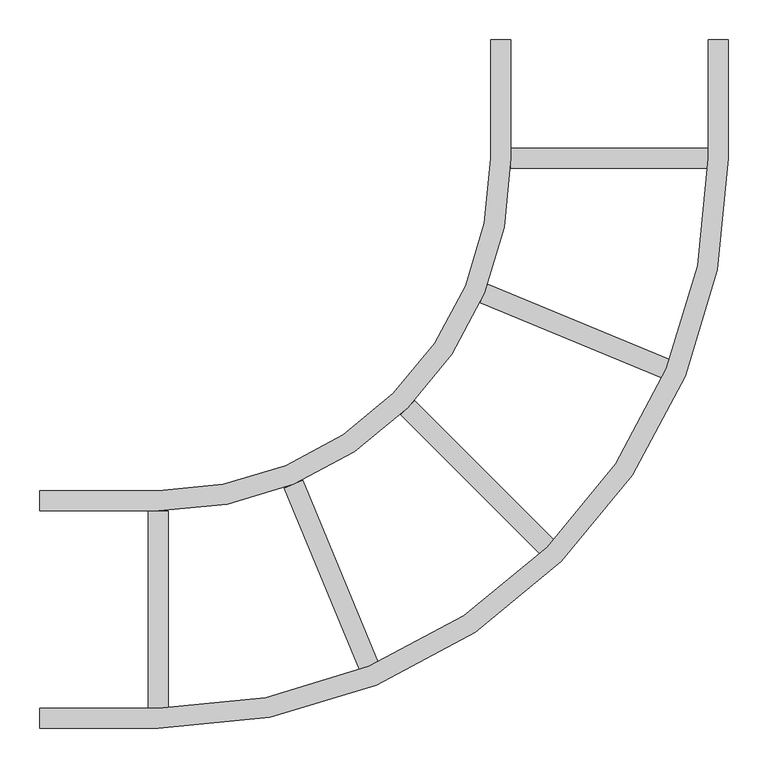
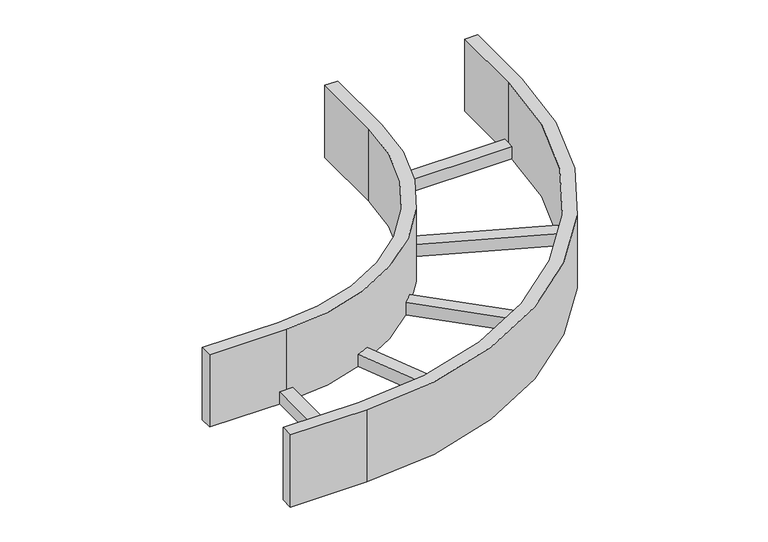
"""IFC4 building model written with IfcOpenShell, lengths in millimetres: cable carrier fitting geometry, BAKS_LD_BEND_Horizontal bend_LDV : LDVP_H150."""

from ifc_helpers import new_model, si_unit, point, frame, frame_2d, origin, place, context, project, spatial, polyline, circle_curve, trimmed, segment, composite_curve, outline, extrude, source, transform, mapped, element, save


def cable_carrier_fitting_f64cf4c9(model_context):
    return source(origin(), model_context, "Body", "SweptSolid", [
        extrude(outline(polyline([(-163.3641358, 387.8195292), (-153.6439766, 411.2860693), (76.5868029, 315.9213579), (66.8666437, 292.4548178), (-163.3641358, 387.8195292)])), frame((0.0, 0.0, -75.0), z_axis=(0.0, 0.0, 1.0), x_axis=(1.0, 0.0, 0.0)), (0.0, 0.0, 1.0), 25.4),
        extrude(outline(polyline([(-411.2860693, 153.6439766), (-387.8195292, 163.3641358), (-292.4548178, -66.8666437), (-315.9213579, -76.5868029), (-411.2860693, 153.6439766)])), frame((0.0, 0.0, -75.0), z_axis=(0.0, 0.0, 1.0), x_axis=(1.0, 0.0, 0.0)), (0.0, 0.0, 1.0), 25.4),
        extrude(outline(polyline([(-124.6, 557.3), (-124.6, 582.7), (124.6, 582.7), (124.6, 557.3), (-124.6, 557.3)])), frame((0.0, 0.0, -75.0), z_axis=(0.0, 0.0, 1.0), x_axis=(1.0, 0.0, 0.0)), (0.0, 0.0, 1.0), 25.4),
        extrude(outline(polyline([(-582.7, 124.6), (-557.3, 124.6), (-557.3, -124.6), (-582.7, -124.6), (-582.7, 124.6)])), frame((0.0, 0.0, -75.0), z_axis=(0.0, 0.0, 1.0), x_axis=(1.0, 0.0, 0.0)), (0.0, 0.0, 1.0), 25.4),
        extrude(outline(polyline([(-264.0348958, 246.0743835), (-246.0743835, 264.0348958), (-69.8633737, 87.8238859), (-87.8238859, 69.8633737), (-264.0348958, 246.0743835)])), frame((0.0, 0.0, -75.0), z_axis=(0.0, 0.0, 1.0), x_axis=(1.0, 0.0, 0.0)), (0.0, 0.0, 1.0), 25.4),
        extrude(outline(composite_curve([segment(polyline([(-720.0, -150.0), (-720.0, -124.6), (-570.0, -124.6)]), True, "CONTINUOUS"), segment(trimmed(circle_curve(frame_2d((-570.0, 570.0)), 694.6), [point((-570.0, -124.6))], [point((124.6, 570.0))], True, "CARTESIAN"), True, "CONTINUOUS"), segment(polyline([(124.6, 570.0), (124.6, 720.0), (150.0, 720.0), (150.0, 570.0)]), True, "CONTINUOUS"), segment(trimmed(circle_curve(frame_2d((-570.0, 570.0)), 720.0), [point((150.0, 570.0))], [point((-570.0, -150.0))], False, "CARTESIAN"), True, "CONTINUOUS"), segment(polyline([(-570.0, -150.0), (-720.0, -150.0)]), True, "CONTINUOUS")], self_intersect=False)), frame((0.0, 0.0, -75.0), z_axis=(0.0, 0.0, 1.0), x_axis=(1.0, 0.0, 0.0)), (0.0, 0.0, 1.0), 150.0),
        extrude(outline(composite_curve([segment(polyline([(-720.0, 124.6), (-720.0, 150.0), (-570.0, 150.0)]), True, "CONTINUOUS"), segment(trimmed(circle_curve(frame_2d((-570.0, 570.0)), 420.0), [point((-570.0, 150.0))], [point((-150.0, 570.0))], True, "CARTESIAN"), True, "CONTINUOUS"), segment(polyline([(-150.0, 570.0), (-150.0, 720.0), (-124.6, 720.0), (-124.6, 570.0)]), True, "CONTINUOUS"), segment(trimmed(circle_curve(frame_2d((-570.0, 570.0)), 445.4), [point((-124.6, 570.0))], [point((-570.0, 124.6))], False, "CARTESIAN"), True, "CONTINUOUS"), segment(polyline([(-570.0, 124.6), (-720.0, 124.6)]), True, "CONTINUOUS")], self_intersect=False)), frame((0.0, 0.0, -75.0), z_axis=(0.0, 0.0, 1.0), x_axis=(1.0, 0.0, 0.0)), (0.0, 0.0, 1.0), 150.0),
    ])


if __name__ == "__main__":
    model = new_model("IFC4")
    model_context = context("Model", 3, world=origin())
    ifc_project = project(units=[si_unit("LENGTHUNIT", "METRE", prefix="MILLI")], contexts=[model_context])
    site = spatial("IfcSite", under=ifc_project)
    building = spatial("IfcBuilding", under=site)
    placement = place(None, origin())
    cable_carrier_fitting_shape = cable_carrier_fitting_f64cf4c9(model_context)
    element("IfcCableCarrierFitting", 1, ObjectType="BAKS_LD_BEND_Horizontal bend_LDV : LDVP_H150", at=placement, inside=building, context=model_context, shape_type="MappedRepresentation", body=[
        mapped(cable_carrier_fitting_shape, transform((0.0, 0.0, 0.0), x_axis=(1.0, 0.0, 0.0), y_axis=(0.0, 1.0, 0.0), z_axis=(0.0, 0.0, 1.0))),
    ])
    save(model, "model.ifc")
